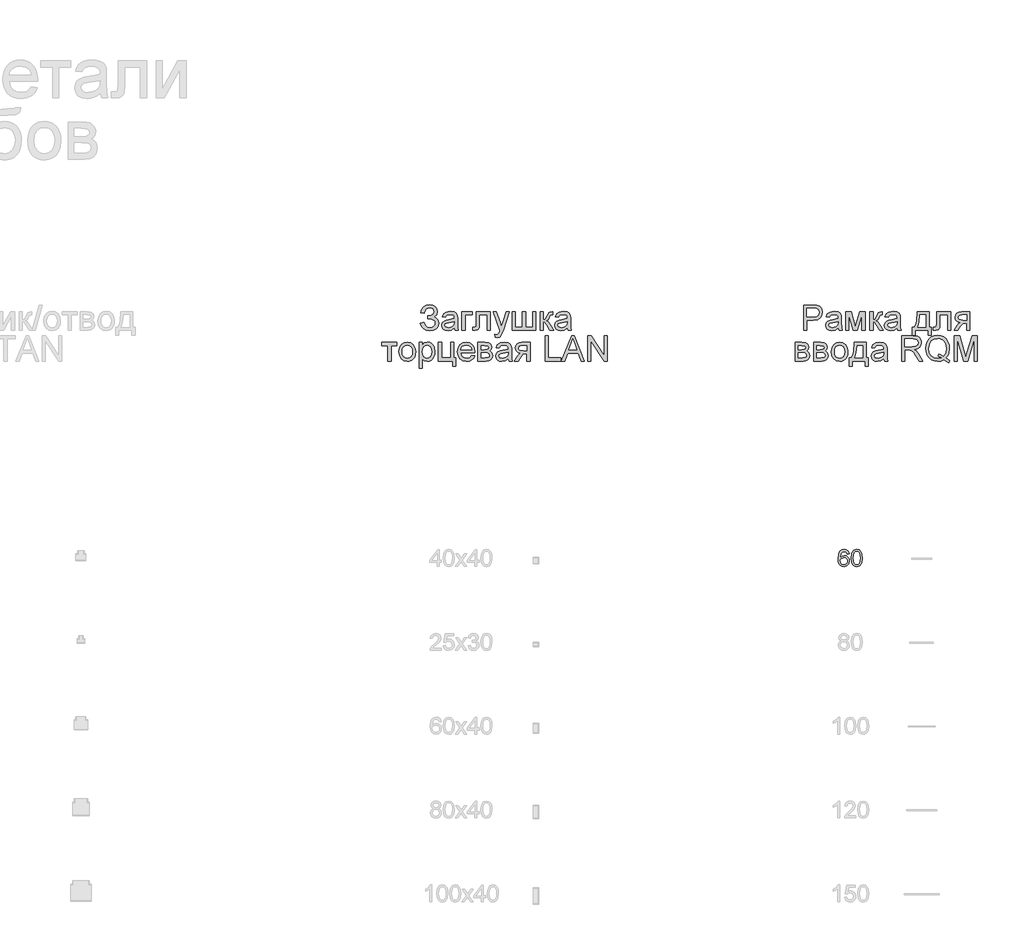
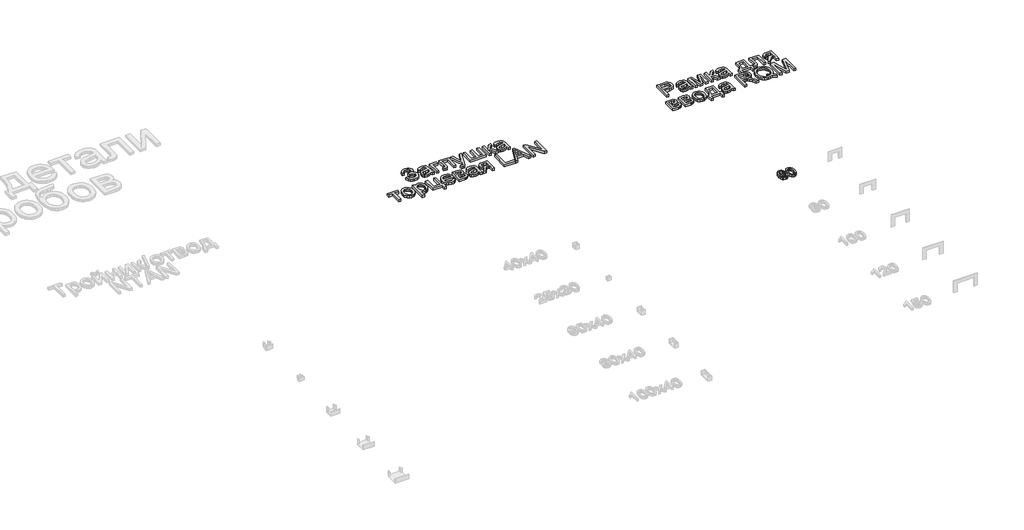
# One storey, part 28 of 28: 3 proxies.
"""IFC4 building model written with IfcOpenShell, lengths in millimetres."""

from ifc_helpers import new_model, si_unit, origin, origin_with_axes, place, context, project, spatial, polyline, outline, extrude, element, save

model = new_model("IFC4")

# Units and contexts
model_context = context("Model", 3, world=origin())
ifc_project = project(units=[si_unit("LENGTHUNIT", "METRE", prefix="MILLI")], contexts=[model_context])

# Site, building, storey
site = spatial("IfcSite", under=ifc_project)
building = spatial("IfcBuilding", under=site)
storey = spatial("IfcBuildingStorey", under=building, Name="Этаж 01", Elevation=0.0)

# Proxies
placement = place(None, origin())
element("IfcBuildingElementProxy", 1, Name="150 мм Arial", ObjectType="150 мм Arial", at=placement, inside=storey, context=model_context, shape_type="SweptSolid", body=[
    extrude(outline(polyline([(23897.3911069, 4495.9781892), (23916.2266651, 4500.6870788), (23927.7965538, 4480.2880221), (23938.7272476, 4472.6314781), (23952.720559, 4470.0792968), (23966.8978114, 4471.9968817), (23977.7181406, 4477.7496364), (23984.5745412, 4486.2155208), (23986.8600081, 4496.2724948), (23984.3630091, 4506.8077155), (23976.872012, 4514.9425061), (23965.0767955, 4520.1434378), (23949.6671384, 4521.8770817), (23939.7711128, 4521.8770817), (23939.7711128, 4540.7126398), (23961.0898744, 4542.2393501), (23974.1312911, 4550.0384484), (23979.7966738, 4564.2938757), (23977.9112786, 4573.1644303), (23972.2550929, 4580.7933832), (23963.3799398, 4586.0494972), (23951.8376422, 4587.8015352), (23932.615808, 4582.412064), (23921.6161363, 4568.1198485), (23918.5811098, 4554.8393084), (23899.7455517, 4559.548198), (23905.5971747, 4580.1495897), (23916.1990739, 4594.8648695), (23931.5512494, 4603.6940374), (23951.6537012, 4606.6370934), (23971.0456809, 4603.5790743), (23985.9586973, 4594.405017), (23995.4638483, 4581.1382726), (23998.632232, 4565.8021919), (23993.7026132, 4547.1597718), (23978.913757, 4533.2446353), (23989.3891969, 4528.4207827), (23998.0068326, 4520.276795), (24003.7733829, 4509.5116481), (24005.6955663, 4496.8243178), (24002.0075493, 4478.9866396), (23990.9434983, 4464.3219435), (23973.7910003, 4454.5132898), (23951.8376422, 4451.2437386), (23932.7353696, 4454.0396418), (23917.2935229, 4462.4273513), (23905.512102, 4476.4068671), (23897.3911069, 4495.9781892)])), origin_with_axes(), (0.0, 0.0, 1.0), 20.0),
    extrude(outline(polyline([(24099.8733571, 4467.724852), (24081.608016, 4454.9593468), (24061.4296886, 4451.2437386), (24045.6889377, 4453.4786217), (24034.0776622, 4460.1832711), (24026.9177589, 4470.3644053), (24024.5311244, 4483.028743), (24028.136368, 4497.9279638), (24037.6093294, 4508.7436945), (24050.7978989, 4514.924112), (24067.0950713, 4517.7568033), (24099.7629925, 4524.2315265), (24099.8733571, 4528.4253812), (24098.576573, 4536.8314848), (24094.6862209, 4542.3313206), (24085.9858117, 4546.4148108), (24073.8641, 4547.7759741), (24054.8078126, 4544.1523365), (24045.7211274, 4531.2948608), (24026.8855692, 4533.6493055), (24035.0341554, 4552.0434053), (24051.4416924, 4562.8223477), (24076.2921212, 4566.6115323), (24099.119199, 4563.2638061), (24112.0134629, 4554.8577025), (24117.7892102, 4542.0738032), (24118.7089152, 4525.5926898), (24118.7089152, 4502.1586067), (24119.6654084, 4469.4355033), (24123.4178047, 4453.5981834), (24104.5822466, 4453.5981834), (24099.8733571, 4467.724852)]), holes=[polyline([(24099.8733571, 4505.3959683), (24069.4863043, 4499.620221), (24053.2811024, 4496.5668004), (24045.9418566, 4491.6003935), (24043.3666826, 4484.3531182), (24048.976883, 4474.1627869), (24065.4396023, 4470.0792968), (24084.4958897, 4474.5858512), (24096.7831483, 4485.4935524), (24099.7629925, 4500.0616794), (24099.8733571, 4505.3959683)])]), origin_with_axes(), (0.0, 0.0, 1.0), 20.0),
    extrude(outline(polyline([(24144.6078077, 4564.2570875), (24205.8233717, 4564.2570875), (24205.8233717, 4545.4215294), (24163.4433658, 4545.4215294), (24163.4433658, 4453.5981834), (24144.6078077, 4453.5981834), (24144.6078077, 4564.2570875)])), origin_with_axes(), (0.0, 0.0, 1.0), 20.0),
    extrude(outline(polyline([(24229.3678194, 4564.2570875), (24314.127831, 4564.2570875), (24314.127831, 4453.708548), (24295.2922729, 4453.708548), (24295.2922729, 4545.4215294), (24248.2033775, 4545.4215294), (24248.2033775, 4492.6304631), (24246.9341846, 4468.276675), (24239.9628208, 4457.9943732), (24223.4817074, 4453.5981834), (24208.1778164, 4454.5546766), (24208.1778164, 4472.4337415), (24216.6023141, 4472.4337415), (24225.1187823, 4473.5925698), (24228.5216908, 4477.2713898), (24229.3678194, 4493.6973209), (24229.3678194, 4564.2570875)])), origin_with_axes(), (0.0, 0.0, 1.0), 20.0),
    extrude(outline(polyline([(24342.3811683, 4411.2181775), (24340.0267235, 4429.3547599), (24349.5916554, 4427.6992909), (24358.5311879, 4429.7778242), (24364.0126296, 4435.5719656), (24369.1629775, 4449.4411168), (24370.6345055, 4454.0028536), (24330.6089444, 4564.2570875), (24350.4745722, 4564.2570875), (24371.7013633, 4502.8207943), (24379.0957914, 4478.2462771), (24386.4902195, 4499.9513148), (24408.3056218, 4564.2570875), (24428.0240968, 4564.2570875), (24389.5068519, 4450.949433), (24379.5004616, 4426.3749157), (24368.5743663, 4413.0943757), (24353.8958747, 4408.8637328), (24342.3811683, 4411.2181775)])), origin_with_axes(), (0.0, 0.0, 1.0), 20.0),
    extrude(outline(polyline([(24443.6222934, 4564.2570875), (24462.4578515, 4564.2570875), (24462.4578515, 4472.4337415), (24504.8378573, 4472.4337415), (24504.8378573, 4564.2570875), (24523.6734155, 4564.2570875), (24523.6734155, 4472.4337415), (24566.0534213, 4472.4337415), (24566.0534213, 4564.2570875), (24584.8889795, 4564.2570875), (24584.8889795, 4453.5981834), (24443.6222934, 4453.5981834), (24443.6222934, 4564.2570875)])), origin_with_axes(), (0.0, 0.0, 1.0), 20.0),
    extrude(outline(polyline([(24610.787872, 4564.2570875), (24629.6234301, 4564.2570875), (24629.6234301, 4517.1681921), (24642.2417825, 4520.5527065), (24652.5792666, 4540.2711814), (24661.1693112, 4557.2857237), (24668.7476803, 4562.8223477), (24682.524861, 4564.2570875), (24686.1301046, 4564.2570875), (24686.1301046, 4545.3111648), (24681.053333, 4545.4215294), (24671.8562832, 4543.4349666), (24665.38156, 4531.0373434), (24657.7847968, 4517.6280446), (24647.1346131, 4511.061351), (24659.0172015, 4503.7313023), (24670.6790608, 4488.2894555), (24690.8389941, 4453.5981834), (24669.428262, 4453.5981834), (24649.6729988, 4487.5536915), (24639.740185, 4501.9194834), (24629.6234301, 4505.3959683), (24629.6234301, 4453.5981834), (24610.787872, 4453.5981834), (24610.787872, 4564.2570875)])), origin_with_axes(), (0.0, 0.0, 1.0), 20.0),
    extrude(outline(polyline([(24773.244561, 4467.724852), (24754.97922, 4454.9593468), (24734.8008925, 4451.2437386), (24719.0601417, 4453.4786217), (24707.4488662, 4460.1832711), (24700.2889629, 4470.3644053), (24697.9023284, 4483.028743), (24701.507572, 4497.9279638), (24710.9805333, 4508.7436945), (24724.1691029, 4514.924112), (24740.4662753, 4517.7568033), (24773.1341964, 4524.2315265), (24773.244561, 4528.4253812), (24771.947777, 4536.8314848), (24768.0574249, 4542.3313206), (24759.3570157, 4546.4148108), (24747.235304, 4547.7759741), (24728.1790166, 4544.1523365), (24719.0923313, 4531.2948608), (24700.2567732, 4533.6493055), (24708.4053594, 4552.0434053), (24724.8128964, 4562.8223477), (24749.6633251, 4566.6115323), (24772.4904029, 4563.2638061), (24785.3846669, 4554.8577025), (24791.1604142, 4542.0738032), (24792.0801192, 4525.5926898), (24792.0801192, 4502.1586067), (24793.0366124, 4469.4355033), (24796.7890087, 4453.5981834), (24777.9534506, 4453.5981834), (24773.244561, 4467.724852)]), holes=[polyline([(24773.244561, 4505.3959683), (24742.8575082, 4499.620221), (24726.6523063, 4496.5668004), (24719.3130605, 4491.6003935), (24716.7378866, 4484.3531182), (24722.348087, 4474.1627869), (24738.8108063, 4470.0792968), (24757.8670936, 4474.5858512), (24770.1543523, 4485.4935524), (24773.1341964, 4500.0616794), (24773.244561, 4505.3959683)])]), origin_with_axes(), (0.0, 0.0, 1.0), 20.0),
    extrude(outline(polyline([(23667.8327419, 4381.2948608), (23757.3016431, 4381.2948608), (23757.3016431, 4362.4593026), (23721.9849716, 4362.4593026), (23721.9849716, 4270.6359566), (23703.1494135, 4270.6359566), (23703.1494135, 4362.4593026), (23667.8327419, 4362.4593026), (23667.8327419, 4381.2948608)])), origin_with_axes(), (0.0, 0.0, 1.0), 20.0),
    extrude(outline(polyline([(23769.073867, 4325.9654087), (23773.1481601, 4352.6460504), (23785.3710394, 4371.3988351), (23800.4725953, 4380.5866879), (23818.5539953, 4383.6493055), (23838.3414482, 4379.9199018), (23854.1465784, 4368.7316906), (23864.5070551, 4350.9675888), (23867.9605473, 4327.5105131), (23866.433837, 4308.4818169), (23861.8537062, 4293.9964633), (23854.353512, 4283.148543), (23844.0666117, 4275.0321465), (23831.8483309, 4269.9691705), (23818.5539953, 4268.2815118), (23798.5274192, 4271.99712), (23782.7406831, 4283.1439444), (23772.490571, 4301.2805268), (23769.073867, 4325.9654087)]), holes=[polyline([(23787.9094251, 4326.0021969), (23790.089126, 4308.9554649), (23796.6282284, 4296.8107606), (23806.4690718, 4289.5404926), (23818.5539953, 4287.11707), (23830.5837366, 4289.5542882), (23840.4061859, 4296.8659429), (23846.9452883, 4309.1715956), (23849.1249891, 4326.5908081), (23846.9314927, 4343.1408993), (23840.3510036, 4355.1200568), (23830.5147587, 4362.3903247), (23818.5539953, 4364.8137474), (23806.4690718, 4362.3995218), (23796.6282284, 4355.156845), (23790.089126, 4343.0397318), (23787.9094251, 4326.0021969)])]), origin_with_axes(), (0.0, 0.0, 1.0), 20.0),
    extrude(outline(polyline([(23889.1505502, 4228.2559508), (23889.1505502, 4381.2948608), (23907.9861084, 4381.2948608), (23907.9861084, 4362.8271846), (23921.009131, 4378.4437753), (23938.5938904, 4383.6493055), (23951.3318045, 4381.8282897), (23962.4694319, 4376.365242), (23971.537723, 4367.5912564), (23978.0676285, 4355.8374267), (23983.328341, 4326.8115373), (23981.8430174, 4310.7029044), (23977.3870468, 4296.2957258), (23970.1029833, 4284.3211668), (23960.1333812, 4275.510393), (23948.5221057, 4270.0887321), (23936.313022, 4268.2815118), (23919.9238791, 4273.1191601), (23907.9861084, 4285.3512364), (23907.9861084, 4228.2559508), (23889.1505502, 4228.2559508)]), holes=[polyline([(23907.9861084, 4325.0824919), (23910.0232549, 4308.1967083), (23916.1346946, 4296.3876963), (23925.152402, 4289.4347266), (23935.9083518, 4287.11707), (23946.8390456, 4289.5175), (23956.0866792, 4296.7187901), (23962.3912569, 4308.9600635), (23964.4927828, 4326.4804435), (23962.4418407, 4343.2742566), (23956.2890143, 4355.2488155), (23947.2851025, 4362.4225144), (23936.680904, 4364.8137474), (23926.0353188, 4362.2707631), (23916.6865176, 4354.6418102), (23910.1612107, 4342.166012), (23907.9861084, 4325.0824919)])]), origin_with_axes(), (0.0, 0.0, 1.0), 20.0),
    extrude(outline(polyline([(24004.5183439, 4381.2948608), (24023.3539021, 4381.2948608), (24023.3539021, 4289.4715148), (24077.5061318, 4289.4715148), (24077.5061318, 4381.2948608), (24096.3416899, 4381.2948608), (24096.3416899, 4289.4715148), (24108.1139137, 4289.4715148), (24108.1139137, 4240.0281746), (24089.2783556, 4240.0281746), (24089.2783556, 4270.6359566), (24004.5183439, 4270.6359566), (24004.5183439, 4381.2948608)])), origin_with_axes(), (0.0, 0.0, 1.0), 20.0),
    extrude(outline(polyline([(24202.0709753, 4303.5981834), (24220.5386515, 4301.2437386), (24213.8845859, 4287.3286021), (24203.2665918, 4276.9267387), (24188.9237925, 4270.4428186), (24171.0953113, 4268.2815118), (24148.9948005, 4272.0109156), (24131.9894552, 4283.1991267), (24121.1461334, 4301.1195784), (24117.5316928, 4325.0457037), (24121.1829216, 4349.7765708), (24132.136608, 4368.2718381), (24148.912027, 4379.8049387), (24170.0284535, 4383.6493055), (24190.487291, 4379.8141357), (24206.8350472, 4368.3086263), (24217.5542088, 4349.8501472), (24221.1272627, 4325.1560683), (24221.0168981, 4320.0792968), (24136.367251, 4320.0792968), (24139.6276052, 4305.9802193), (24147.2013757, 4295.6151441), (24158.1320695, 4289.2415885), (24171.4631933, 4287.11707), (24189.9308695, 4291.0534073), (24202.0709753, 4303.5981834)]), holes=[polyline([(24136.367251, 4338.9148549), (24202.2917045, 4338.9148549), (24199.7441217, 4348.8660629), (24194.7501236, 4355.9845795), (24183.7688461, 4362.6064554), (24169.9548771, 4364.8137474), (24157.2583498, 4363.0525123), (24146.7599173, 4357.7688072), (24139.4620583, 4349.532849), (24136.367251, 4338.9148549)])]), origin_with_axes(), (0.0, 0.0, 1.0), 20.0),
    extrude(outline(polyline([(24239.9628208, 4381.2948608), (24281.4599099, 4381.2948608), (24304.2134113, 4378.7748691), (24317.0157047, 4369.541031), (24322.3683877, 4353.4461937), (24319.1310262, 4340.3679888), (24309.3821533, 4331.0421802), (24322.0372939, 4320.8334549), (24327.0772773, 4303.0831486), (24323.885901, 4288.7265537), (24316.2983348, 4278.6189959), (24304.2869877, 4272.6317164), (24287.8242684, 4270.6359566), (24239.9628208, 4270.6359566), (24239.9628208, 4381.2948608)]), holes=[polyline([(24258.798379, 4338.9148549), (24277.4132079, 4338.9148549), (24292.7722812, 4339.8713481), (24300.2402857, 4343.6973209), (24303.5328296, 4350.6135024), (24302.0888928, 4356.2328998), (24297.7570823, 4359.8473404), (24278.0018191, 4362.4593026), (24258.798379, 4362.4593026), (24258.798379, 4338.9148549)]), polyline([(24258.798379, 4289.4715148), (24281.9013683, 4289.4715148), (24302.3923954, 4292.8744232), (24306.6322354, 4297.5143349), (24308.2417191, 4304.628253), (24305.0227517, 4313.6965441), (24296.6350422, 4318.9756508), (24280.0619583, 4320.0792968), (24258.798379, 4320.0792968), (24258.798379, 4289.4715148)])]), origin_with_axes(), (0.0, 0.0, 1.0), 20.0),
    extrude(outline(polyline([(24421.255068, 4284.7626252), (24402.989727, 4271.99712), (24382.8113995, 4268.2815118), (24367.0706487, 4270.516395), (24355.4593732, 4277.2210443), (24348.2994699, 4287.4021785), (24345.9128354, 4300.0665162), (24349.518079, 4314.965737), (24358.9910404, 4325.7814677), (24372.1796099, 4331.9618852), (24388.4767823, 4334.7945766), (24421.1447034, 4341.2692997), (24421.255068, 4345.4631544), (24419.958284, 4353.869258), (24416.0679319, 4359.3690938), (24407.3675227, 4363.452584), (24395.245811, 4364.8137474), (24376.1895236, 4361.1901097), (24367.1028384, 4348.332634), (24348.2672802, 4350.6870788), (24356.4158664, 4369.0811785), (24372.8234034, 4379.860121), (24397.6738322, 4383.6493055), (24420.50091, 4380.3015794), (24433.3951739, 4371.8954758), (24439.1709212, 4359.1115764), (24440.0906262, 4342.6304631), (24440.0906262, 4319.19638), (24441.0471194, 4286.4732765), (24444.7995157, 4270.6359566), (24425.9639576, 4270.6359566), (24421.255068, 4284.7626252)]), holes=[polyline([(24421.255068, 4322.4337415), (24390.8680152, 4316.6579942), (24374.6628134, 4313.6045736), (24367.3235676, 4308.6381667), (24364.7483936, 4301.3908914), (24370.358594, 4291.2005601), (24386.8213133, 4287.11707), (24405.8776006, 4291.6236244), (24418.1648593, 4302.5313256), (24421.1447034, 4317.0994526), (24421.255068, 4322.4337415)])]), origin_with_axes(), (0.0, 0.0, 1.0), 20.0),
    extrude(outline(polyline([(24550.7495303, 4381.2948608), (24550.7495303, 4270.6359566), (24531.9139722, 4270.6359566), (24531.9139722, 4313.0159625), (24521.6500645, 4313.0159625), (24507.6705487, 4310.6247295), (24494.5371615, 4294.5482863), (24479.5275761, 4270.6359566), (24457.748962, 4270.6359566), (24476.6580965, 4300.8758566), (24485.0090178, 4311.7283755), (24492.6977515, 4316.5476296), (24479.8218817, 4320.493164), (24470.7719846, 4327.9887597), (24465.4193016, 4337.9583617), (24463.6350739, 4349.3259154), (24466.0722921, 4362.2201793), (24473.3839468, 4372.4289047), (24485.3125205, 4379.0783717), (24501.6004958, 4381.2948608), (24550.7495303, 4381.2948608)]), holes=[polyline([(24531.9139722, 4362.4593026), (24507.0819375, 4362.4593026), (24494.2566515, 4361.3694522), (24486.9771865, 4358.099901), (24482.470632, 4347.8911756), (24484.1306995, 4340.7128782), (24489.1109021, 4335.7326757), (24512.6369556, 4331.8515206), (24531.9139722, 4331.8515206), (24531.9139722, 4362.4593026)])]), origin_with_axes(), (0.0, 0.0, 1.0), 20.0),
    extrude(outline(polyline([(24640.2184316, 4270.6359566), (24640.2184316, 4421.3204218), (24659.0539897, 4421.3204218), (24659.0539897, 4289.4715148), (24734.3962223, 4289.4715148), (24734.3962223, 4270.6359566), (24640.2184316, 4270.6359566)])), origin_with_axes(), (0.0, 0.0, 1.0), 20.0),
    extrude(outline(polyline([(24738.0382541, 4270.6359566), (24798.1869603, 4421.3204218), (24814.2266153, 4421.3204218), (24874.3753215, 4270.6359566), (24854.4729056, 4270.6359566), (24837.21924, 4317.724852), (24775.1575474, 4317.724852), (24757.94067, 4270.6359566), (24738.0382541, 4270.6359566)]), holes=[polyline([(24782.0737289, 4336.5604101), (24830.3398467, 4336.5604101), (24816.7650011, 4373.6061271), (24806.2067878, 4402.4848637), (24796.8257969, 4376.8434886), (24782.0737289, 4336.5604101)])]), origin_with_axes(), (0.0, 0.0, 1.0), 20.0),
    extrude(outline(polyline([(24894.4984666, 4270.6359566), (24894.4984666, 4421.3204218), (24914.6584, 4421.3204218), (24993.3851469, 4301.9427144), (24993.3851469, 4421.3204218), (25012.2207051, 4421.3204218), (25012.2207051, 4270.6359566), (24992.0607718, 4270.6359566), (24913.3340248, 4390.0504522), (24913.3340248, 4270.6359566), (24894.4984666, 4270.6359566)])), origin_with_axes(), (0.0, 0.0, 1.0), 20.0),
])
element("IfcBuildingElementProxy", 2, Name="150 мм Arial", ObjectType="150 мм Arial", at=placement, inside=storey, context=model_context, shape_type="SweptSolid", body=[
    extrude(outline(polyline([(26181.0142973, 4453.5981834), (26181.0142973, 4604.2826486), (26236.8587842, 4604.2826486), (26259.3731623, 4602.8479088), (26277.6752916, 4595.8029686), (26289.5394859, 4581.2348416), (26294.0276462, 4560.6886322), (26290.9972183, 4542.9291289), (26281.9059345, 4528.1310756), (26264.9051878, 4518.1430794), (26238.1463712, 4514.8137474), (26199.8498555, 4514.8137474), (26199.8498555, 4453.5981834), (26181.0142973, 4453.5981834)]), holes=[polyline([(26199.8498555, 4533.6493055), (26239.2500172, 4533.6493055), (26255.9518597, 4535.3783509), (26266.9883196, 4540.565487), (26273.141146, 4548.8888172), (26275.1920881, 4560.0264446), (26270.3544398, 4575.6246412), (26257.6441169, 4584.1595035), (26238.8085588, 4585.4470904), (26199.8498555, 4585.4470904), (26199.8498555, 4533.6493055)])]), origin_with_axes(), (0.0, 0.0, 1.0), 20.0),
    extrude(outline(polyline([(26388.205437, 4467.724852), (26369.9400959, 4454.9593468), (26349.7617685, 4451.2437386), (26334.0210176, 4453.4786217), (26322.4097422, 4460.1832711), (26315.2498388, 4470.3644053), (26312.8632044, 4483.028743), (26316.4684479, 4497.9279638), (26325.9414093, 4508.7436945), (26339.1299788, 4514.924112), (26355.4271512, 4517.7568033), (26388.0950724, 4524.2315265), (26388.205437, 4528.4253812), (26386.908653, 4536.8314848), (26383.0183009, 4542.3313206), (26374.3178917, 4546.4148108), (26362.1961799, 4547.7759741), (26343.1398926, 4544.1523365), (26334.0532073, 4531.2948608), (26315.2176492, 4533.6493055), (26323.3662354, 4552.0434053), (26339.7737723, 4562.8223477), (26364.6242011, 4566.6115323), (26387.4512789, 4563.2638061), (26400.3455428, 4554.8577025), (26406.1212902, 4542.0738032), (26407.0409952, 4525.5926898), (26407.0409952, 4502.1586067), (26407.9974883, 4469.4355033), (26411.7498847, 4453.5981834), (26392.9143265, 4453.5981834), (26388.205437, 4467.724852)]), holes=[polyline([(26388.205437, 4505.3959683), (26357.8183842, 4499.620221), (26341.6131823, 4496.5668004), (26334.2739365, 4491.6003935), (26331.6987625, 4484.3531182), (26337.308963, 4474.1627869), (26353.7716823, 4470.0792968), (26372.8279696, 4474.5858512), (26385.1152282, 4485.4935524), (26388.0950724, 4500.0616794), (26388.205437, 4505.3959683)])]), origin_with_axes(), (0.0, 0.0, 1.0), 20.0),
    extrude(outline(polyline([(26432.9398876, 4564.2570875), (26465.3502914, 4564.2570875), (26490.3294789, 4475.6711031), (26517.2584409, 4564.2570875), (26548.3076813, 4564.2570875), (26548.3076813, 4453.5981834), (26529.4721231, 4453.5981834), (26529.4721231, 4542.6992026), (26502.3960083, 4453.5981834), (26477.6743382, 4453.5981834), (26451.7754458, 4546.9666338), (26451.7754458, 4453.5981834), (26432.9398876, 4453.5981834), (26432.9398876, 4564.2570875)])), origin_with_axes(), (0.0, 0.0, 1.0), 20.0),
    extrude(outline(polyline([(26576.5610185, 4564.2570875), (26595.3965767, 4564.2570875), (26595.3965767, 4517.1681921), (26608.0149291, 4520.5527065), (26618.3524132, 4540.2711814), (26626.9424578, 4557.2857237), (26634.5208269, 4562.8223477), (26648.2980076, 4564.2570875), (26651.9032511, 4564.2570875), (26651.9032511, 4545.3111648), (26646.8264796, 4545.4215294), (26637.6294297, 4543.4349666), (26631.1547066, 4531.0373434), (26623.5579434, 4517.6280446), (26612.9077597, 4511.061351), (26624.7903481, 4503.7313023), (26636.4522073, 4488.2894555), (26656.6121407, 4453.5981834), (26635.2014086, 4453.5981834), (26615.4461454, 4487.5536915), (26605.5133316, 4501.9194834), (26595.3965767, 4505.3959683), (26595.3965767, 4453.5981834), (26576.5610185, 4453.5981834), (26576.5610185, 4564.2570875)])), origin_with_axes(), (0.0, 0.0, 1.0), 20.0),
    extrude(outline(polyline([(26739.0177076, 4467.724852), (26720.7523665, 4454.9593468), (26700.5740391, 4451.2437386), (26684.8332882, 4453.4786217), (26673.2220128, 4460.1832711), (26666.0621094, 4470.3644053), (26663.675475, 4483.028743), (26667.2807185, 4497.9279638), (26676.7536799, 4508.7436945), (26689.9422494, 4514.924112), (26706.2394218, 4517.7568033), (26738.907343, 4524.2315265), (26739.0177076, 4528.4253812), (26737.7209236, 4536.8314848), (26733.8305715, 4542.3313206), (26725.1301623, 4546.4148108), (26713.0084505, 4547.7759741), (26693.9521632, 4544.1523365), (26684.8654779, 4531.2948608), (26666.0299198, 4533.6493055), (26674.178506, 4552.0434053), (26690.5860429, 4562.8223477), (26715.4364717, 4566.6115323), (26738.2635495, 4563.2638061), (26751.1578134, 4554.8577025), (26756.9335608, 4542.0738032), (26757.8532658, 4525.5926898), (26757.8532658, 4502.1586067), (26758.8097589, 4469.4355033), (26762.5621553, 4453.5981834), (26743.7265971, 4453.5981834), (26739.0177076, 4467.724852)]), holes=[polyline([(26739.0177076, 4505.3959683), (26708.6306548, 4499.620221), (26692.4254529, 4496.5668004), (26685.0862071, 4491.6003935), (26682.5110331, 4484.3531182), (26688.1212336, 4474.1627869), (26704.5839529, 4470.0792968), (26723.6402402, 4474.5858512), (26735.9274988, 4485.4935524), (26738.907343, 4500.0616794), (26739.0177076, 4505.3959683)])]), origin_with_axes(), (0.0, 0.0, 1.0), 20.0),
    extrude(outline(polyline([(26859.0943908, 4564.2570875), (26929.7277339, 4564.2570875), (26929.7277339, 4472.4337415), (26943.8544025, 4472.4337415), (26943.8544025, 4422.9904014), (26925.0188444, 4422.9904014), (26925.0188444, 4453.5981834), (26847.322167, 4453.5981834), (26847.322167, 4422.9904014), (26828.4866088, 4422.9904014), (26828.4866088, 4472.4337415), (26840.2588327, 4472.4337415), (26848.8166876, 4487.8985809), (26854.8085656, 4508.3574184), (26859.0943908, 4564.2570875)]), holes=[polyline([(26875.5755042, 4545.4215294), (26871.1609203, 4502.5080946), (26861.4488356, 4472.4337415), (26910.8921757, 4472.4337415), (26910.8921757, 4545.4215294), (26875.5755042, 4545.4215294)])]), origin_with_axes(), (0.0, 0.0, 1.0), 20.0),
    extrude(outline(polyline([(26974.4621845, 4564.2570875), (27059.2221962, 4564.2570875), (27059.2221962, 4453.708548), (27040.3866381, 4453.708548), (27040.3866381, 4545.4215294), (26993.2977427, 4545.4215294), (26993.2977427, 4492.6304631), (26992.0285498, 4468.276675), (26985.057186, 4457.9943732), (26968.5760726, 4453.5981834), (26953.2721816, 4454.5546766), (26953.2721816, 4472.4337415), (26961.6966793, 4472.4337415), (26970.2131475, 4473.5925698), (26973.6160559, 4477.2713898), (26974.4621845, 4493.6973209), (26974.4621845, 4564.2570875)])), origin_with_axes(), (0.0, 0.0, 1.0), 20.0),
    extrude(outline(polyline([(27172.2355451, 4564.2570875), (27172.2355451, 4453.5981834), (27153.399987, 4453.5981834), (27153.399987, 4495.9781892), (27143.1360793, 4495.9781892), (27129.1565635, 4493.5869563), (27116.0231763, 4477.5105131), (27101.0135909, 4453.5981834), (27079.2349767, 4453.5981834), (27098.1441113, 4483.8380834), (27106.4950326, 4494.6906022), (27114.1837663, 4499.5098564), (27101.3078965, 4503.4553908), (27092.2579994, 4510.9509864), (27086.9053163, 4520.9205885), (27085.1210887, 4532.2881421), (27087.5583069, 4545.1824061), (27094.8699615, 4555.3911314), (27106.7985352, 4562.0405985), (27123.0865106, 4564.2570875), (27172.2355451, 4564.2570875)]), holes=[polyline([(27153.399987, 4545.4215294), (27128.5679523, 4545.4215294), (27115.7426662, 4544.331679), (27108.4632013, 4541.0621277), (27103.9566468, 4530.8534024), (27105.6167143, 4523.6751049), (27110.5969168, 4518.6949024), (27134.1229704, 4514.8137474), (27153.399987, 4514.8137474), (27153.399987, 4545.4215294)])]), origin_with_axes(), (0.0, 0.0, 1.0), 20.0),
    extrude(outline(polyline([(26130.3937348, 4381.2948608), (26171.8908238, 4381.2948608), (26194.6443252, 4378.7748691), (26207.4466187, 4369.541031), (26212.7993017, 4353.4461937), (26209.5619401, 4340.3679888), (26199.8130673, 4331.0421802), (26212.4682079, 4320.8334549), (26217.5081912, 4303.0831486), (26214.3168149, 4288.7265537), (26206.7292488, 4278.6189959), (26194.7179016, 4272.6317164), (26178.2551824, 4270.6359566), (26130.3937348, 4270.6359566), (26130.3937348, 4381.2948608)]), holes=[polyline([(26149.2292929, 4289.4715148), (26172.3322822, 4289.4715148), (26192.8233094, 4292.8744232), (26197.0631494, 4297.5143349), (26198.6726331, 4304.628253), (26195.4536656, 4313.6965441), (26187.0659561, 4318.9756508), (26170.4928723, 4320.0792968), (26149.2292929, 4320.0792968), (26149.2292929, 4289.4715148)]), polyline([(26149.2292929, 4338.9148549), (26167.8441219, 4338.9148549), (26183.2031952, 4339.8713481), (26190.6711997, 4343.6973209), (26193.9637435, 4350.6135024), (26192.5198067, 4356.2328998), (26188.1879962, 4359.8473404), (26168.4327331, 4362.4593026), (26149.2292929, 4362.4593026), (26149.2292929, 4338.9148549)])]), origin_with_axes(), (0.0, 0.0, 1.0), 20.0),
    extrude(outline(polyline([(26241.0526389, 4381.2948608), (26282.549728, 4381.2948608), (26305.3032294, 4378.7748691), (26318.1055228, 4369.541031), (26323.4582059, 4353.4461937), (26320.2208443, 4340.3679888), (26310.4719714, 4331.0421802), (26323.1271121, 4320.8334549), (26328.1670954, 4303.0831486), (26324.9757191, 4288.7265537), (26317.3881529, 4278.6189959), (26305.3768058, 4272.6317164), (26288.9140865, 4270.6359566), (26241.0526389, 4270.6359566), (26241.0526389, 4381.2948608)]), holes=[polyline([(26259.8881971, 4338.9148549), (26278.503026, 4338.9148549), (26293.8620993, 4339.8713481), (26301.3301038, 4343.6973209), (26304.6226477, 4350.6135024), (26303.1787109, 4356.2328998), (26298.8469004, 4359.8473404), (26279.0916372, 4362.4593026), (26259.8881971, 4362.4593026), (26259.8881971, 4338.9148549)]), polyline([(26259.8881971, 4289.4715148), (26282.9911864, 4289.4715148), (26303.4822135, 4292.8744232), (26307.7220535, 4297.5143349), (26309.3315372, 4304.628253), (26306.1125698, 4313.6965441), (26297.7248603, 4318.9756508), (26281.1517764, 4320.0792968), (26259.8881971, 4320.0792968), (26259.8881971, 4289.4715148)])]), origin_with_axes(), (0.0, 0.0, 1.0), 20.0),
    extrude(outline(polyline([(26347.0026535, 4325.9654087), (26351.0769466, 4352.6460504), (26363.2998259, 4371.3988351), (26378.4013818, 4380.5866879), (26396.4827819, 4383.6493055), (26416.2702347, 4379.9199018), (26432.0753649, 4368.7316906), (26442.4358416, 4350.9675888), (26445.8893338, 4327.5105131), (26444.3626236, 4308.4818169), (26439.7824927, 4293.9964633), (26432.2822985, 4283.148543), (26421.9953983, 4275.0321465), (26409.7771175, 4269.9691705), (26396.4827819, 4268.2815118), (26376.4562058, 4271.99712), (26360.6694697, 4283.1439444), (26350.4193576, 4301.2805268), (26347.0026535, 4325.9654087)]), holes=[polyline([(26365.8382117, 4326.0021969), (26368.0179125, 4308.9554649), (26374.557015, 4296.8107606), (26384.3978584, 4289.5404926), (26396.4827819, 4287.11707), (26408.5125231, 4289.5542882), (26418.3349724, 4296.8659429), (26424.8740749, 4309.1715956), (26427.0537757, 4326.5908081), (26424.8602793, 4343.1408993), (26418.2797901, 4355.1200568), (26408.4435453, 4362.3903247), (26396.4827819, 4364.8137474), (26384.3978584, 4362.3995218), (26374.557015, 4355.156845), (26368.0179125, 4343.0397318), (26365.8382117, 4326.0021969)])]), origin_with_axes(), (0.0, 0.0, 1.0), 20.0),
    extrude(outline(polyline([(26483.5604502, 4381.2948608), (26554.1937932, 4381.2948608), (26554.1937932, 4289.4715148), (26568.3204618, 4289.4715148), (26568.3204618, 4240.0281746), (26549.4849037, 4240.0281746), (26549.4849037, 4270.6359566), (26471.7882263, 4270.6359566), (26471.7882263, 4240.0281746), (26452.9526682, 4240.0281746), (26452.9526682, 4289.4715148), (26464.724892, 4289.4715148), (26473.2827469, 4304.9363541), (26479.2746249, 4325.3951916), (26483.5604502, 4381.2948608)]), holes=[polyline([(26500.0415635, 4362.4593026), (26495.6269796, 4319.5458679), (26485.9148949, 4289.4715148), (26535.3582351, 4289.4715148), (26535.3582351, 4362.4593026), (26500.0415635, 4362.4593026)])]), origin_with_axes(), (0.0, 0.0, 1.0), 20.0),
    extrude(outline(polyline([(26660.1438078, 4284.7626252), (26641.8784668, 4271.99712), (26621.7001393, 4268.2815118), (26605.9593885, 4270.516395), (26594.348113, 4277.2210443), (26587.1882097, 4287.4021785), (26584.8015752, 4300.0665162), (26588.4068188, 4314.965737), (26597.8797802, 4325.7814677), (26611.0683497, 4331.9618852), (26627.3655221, 4334.7945766), (26660.0334432, 4341.2692997), (26660.1438078, 4345.4631544), (26658.8470238, 4353.869258), (26654.9566717, 4359.3690938), (26646.2562625, 4363.452584), (26634.1345508, 4364.8137474), (26615.0782634, 4361.1901097), (26605.9915781, 4348.332634), (26587.15602, 4350.6870788), (26595.3046062, 4369.0811785), (26611.7121432, 4379.860121), (26636.5625719, 4383.6493055), (26659.3896497, 4380.3015794), (26672.2839137, 4371.8954758), (26678.059661, 4359.1115764), (26678.979366, 4342.6304631), (26678.979366, 4319.19638), (26679.9358592, 4286.4732765), (26683.6882555, 4270.6359566), (26664.8526974, 4270.6359566), (26660.1438078, 4284.7626252)]), holes=[polyline([(26660.1438078, 4322.4337415), (26629.756755, 4316.6579942), (26613.5515531, 4313.6045736), (26606.2123073, 4308.6381667), (26603.6371334, 4301.3908914), (26609.2473338, 4291.2005601), (26625.7100531, 4287.11707), (26644.7663404, 4291.6236244), (26657.0535991, 4302.5313256), (26660.0334432, 4317.0994526), (26660.1438078, 4322.4337415)])]), origin_with_axes(), (0.0, 0.0, 1.0), 20.0),
    extrude(outline(polyline([(26766.0938224, 4270.6359566), (26766.0938224, 4421.3204218), (26831.0249946, 4421.3204218), (26861.1729241, 4417.2553258), (26870.4527474, 4411.6267313), (26877.6540375, 4402.8711398), (26882.275555, 4392.0140224), (26883.8160609, 4380.0808502), (26881.2638796, 4365.2368117), (26873.6073355, 4352.9311589), (26860.6165026, 4343.908853), (26842.0614545, 4338.9148549), (26852.7668205, 4330.8582392), (26868.0339233, 4311.4708581), (26893.1602636, 4270.6359566), (26871.2712849, 4270.6359566), (26851.6631745, 4301.869138), (26837.4997177, 4322.5441061), (26827.5485097, 4332.3113731), (26818.5905832, 4335.8982226), (26807.6644879, 4336.5604101), (26784.9293806, 4336.5604101), (26784.9293806, 4270.6359566), (26766.0938224, 4270.6359566)]), holes=[polyline([(26784.9293806, 4355.3959683), (26827.0886572, 4355.3959683), (26848.5913599, 4358.0631128), (26860.8050421, 4366.5979751), (26864.9805028, 4379.3818744), (26862.9893415, 4388.5697272), (26857.0158576, 4395.9733524), (26846.7381543, 4400.8569859), (26831.834335, 4402.4848637), (26784.9293806, 4402.4848637), (26784.9293806, 4355.3959683)])]), origin_with_axes(), (0.0, 0.0, 1.0), 20.0),
    extrude(outline(polyline([(27029.9755776, 4288.6989626), (27053.3360843, 4272.9904014), (27048.2593127, 4259.1948266), (27017.2468606, 4276.8163741), (26999.818451, 4270.4152274), (26980.642602, 4268.2815118), (26961.3747825, 4270.7417227), (26943.9647671, 4278.1223552), (26929.3828445, 4289.9589584), (26918.5993035, 4305.7870812), (26911.9360409, 4324.7376025), (26909.7149534, 4345.941401), (26911.9314424, 4367.1635936), (26918.5809094, 4386.3900264), (26929.3230637, 4402.443477), (26943.8176143, 4414.1467229), (26961.1632504, 4421.2928307), (26980.458661, 4423.6748666), (26999.905823, 4421.2376484), (27017.3388311, 4413.9259937), (27031.810389, 4402.2273463), (27042.3732008, 4386.6291497), (27048.8295298, 4367.9591384), (27050.9816395, 4347.045047), (27045.7577152, 4314.1196084), (27039.2002186, 4300.4619894), (27029.9755776, 4288.6989626)]), holes=[polyline([(26985.8297382, 4313.7517264), (27001.6670581, 4307.764447), (27014.4509574, 4299.4411168), (27027.7223004, 4318.8652862), (27032.1460814, 4346.0885538), (27030.5825829, 4362.6662362), (27025.8920874, 4377.0090355), (27018.1895582, 4388.7536682), (27007.5899582, 4397.5368508), (26994.8106574, 4403.013694), (26980.5690256, 4404.8393084), (26960.0412103, 4401.1466929), (26943.3393677, 4390.0688463), (26932.2477256, 4371.660951), (26928.5505115, 4345.9781892), (26932.2063388, 4320.8472504), (26943.1738208, 4302.3289905), (26959.8250796, 4290.9200501), (26980.5322374, 4287.11707), (27000.8025354, 4290.9798309), (26980.9736958, 4299.3307522), (26985.8297382, 4313.7517264)])]), origin_with_axes(), (0.0, 0.0, 1.0), 20.0),
    extrude(outline(polyline([(27079.2349767, 4270.6359566), (27079.2349767, 4421.3204218), (27111.6453805, 4421.3204218), (27142.4738917, 4315.1128898), (27148.6910974, 4292.9296055), (27155.4233379, 4316.9522998), (27185.7368143, 4421.3204218), (27218.1472181, 4421.3204218), (27218.1472181, 4270.6359566), (27199.31166, 4270.6359566), (27199.31166, 4402.4848637), (27161.4566027, 4270.6359566), (27135.9255922, 4270.6359566), (27098.0705349, 4402.4848637), (27098.0705349, 4270.6359566), (27079.2349767, 4270.6359566)])), origin_with_axes(), (0.0, 0.0, 1.0), 20.0),
])
element("IfcBuildingElementProxy", 3, Name="100 мм Arial", ObjectType="100 мм Arial", at=placement, inside=storey, context=model_context, shape_type="SweptSolid", body=[
    extrude(outline(polyline([(26452.9952268, 3120.437347), (26440.438188, 3118.8677171), (26435.6802476, 3129.3400912), (26423.0986833, 3134.5640156), (26411.7679179, 3131.5228578), (26403.1962674, 3120.1062532), (26399.627812, 3097.7267651), (26410.7010601, 3107.7454181), (26424.4230585, 3111.0195679), (26436.0236041, 3108.7816191), (26445.7602142, 3102.0677727), (26452.363696, 3091.8099964), (26454.5648567, 3078.9402579), (26450.4200528, 3061.6130159), (26439.015711, 3049.3502828), (26422.5591231, 3045.0951144), (26408.3128928, 3047.915543), (26396.9667989, 3056.3768289), (26389.5447797, 3071.3128379), (26387.0707733, 3093.5574359), (26389.8176255, 3118.5672802), (26398.0581822, 3135.6676616), (26409.3092399, 3144.2577062), (26423.8834983, 3147.1210543), (26434.901564, 3145.3490894), (26443.7246005, 3140.0331946), (26449.905018, 3131.5903028), (26452.9952268, 3120.437347)]), holes=[polyline([(26399.627812, 3079.1364616), (26402.5340798, 3068.2594173), (26410.2596017, 3060.3622172), (26421.5781044, 3057.6521531), (26429.8646464, 3059.0562361), (26436.3792234, 3063.2684849), (26440.6006693, 3069.8903608), (26442.0078179, 3078.523325), (26440.6190634, 3086.8098669), (26436.4527998, 3093.1282402), (26429.8278582, 3097.1289569), (26421.0630696, 3098.4625291), (26405.8695432, 3093.1282402), (26401.1882448, 3086.9631511), (26399.627812, 3079.1364616)])]), origin_with_axes(), (0.0, 0.0, 1.0), 20.0),
    extrude(outline(polyline([(26465.5522656, 3096.0835589), (26469.2433483, 3124.986821), (26480.2062317, 3141.6518754), (26498.5144923, 3147.1210543), (26513.1807212, 3143.8836928), (26523.3097388, 3134.5517528), (26529.1958507, 3119.6893202), (26531.4767191, 3096.0835589), (26527.8224246, 3067.3029241), (26516.8963294, 3050.6010815), (26508.6649697, 3046.4716062), (26498.5144923, 3045.0951144), (26485.4669442, 3047.4863473), (26475.5586558, 3054.6600462), (26468.0538631, 3071.650063), (26465.5522656, 3096.0835589)]), holes=[polyline([(26478.1093043, 3096.1080844), (26479.5808323, 3076.3558869), (26483.9954163, 3064.9239539), (26490.5682412, 3059.4701033), (26498.5144923, 3057.6521531), (26506.4607434, 3059.4762347), (26513.0335684, 3064.9484794), (26517.4481524, 3076.3865437), (26518.9196803, 3096.1080844), (26517.4972033, 3115.4157577), (26513.2297722, 3126.9365955), (26506.6692099, 3132.6571606), (26498.3673395, 3134.5640156), (26490.5069276, 3132.8840211), (26484.19162, 3127.8440378), (26479.6298833, 3115.6058301), (26478.1093043, 3096.1080844)])]), origin_with_axes(), (0.0, 0.0, 1.0), 20.0),
])

save(model, "model.ifc")
